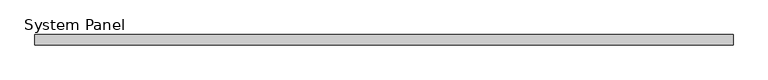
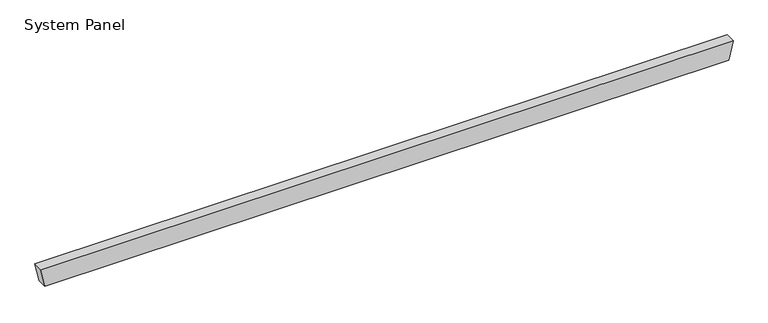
"""IFC4 building model written with IfcOpenShell, lengths in millimetres: plate geometry, System Panel : MetecnoPanel_200mm_Plain_Surfmist."""

from ifc_helpers import new_model, si_unit, frame, origin, place, context, project, spatial, polyline, outline, extrude, source, transform, mapped, element, save


def system_panel_4b1fffc4(model_context):
    return source(origin(), model_context, "Body", "SweptSolid", [
        extrude(outline(polyline([(0.0, -6717.3970701), (0.0, 6717.3970701), (379.9704237, 6800.0), (379.9704237, -6800.0), (0.0, -6717.3970701)])), frame((0.0, -200.0, 0.0), z_axis=(0.0, 1.0, 0.0), x_axis=(0.0, 0.0, 1.0)), (0.0, 0.0, 1.0), 200.0),
    ])


if __name__ == "__main__":
    model = new_model("IFC4")
    model_context = context("Model", 3, world=origin())
    ifc_project = project(units=[si_unit("LENGTHUNIT", "METRE", prefix="MILLI")], contexts=[model_context])
    site = spatial("IfcSite", under=ifc_project)
    building = spatial("IfcBuilding", under=site)
    placement = place(None, origin())
    system_panel_shape = system_panel_4b1fffc4(model_context)
    element("IfcPlate", 1, ObjectType="System Panel : MetecnoPanel_200mm_Plain_Surfmist", at=placement, inside=building, context=model_context, shape_type="MappedRepresentation", body=[
        mapped(system_panel_shape, transform((0.0, 0.0, 0.0), x_axis=(1.0, 0.0, 0.0), y_axis=(0.0, 1.0, 0.0), z_axis=(0.0, 0.0, 1.0))),
    ])
    save(model, "model.ifc")
